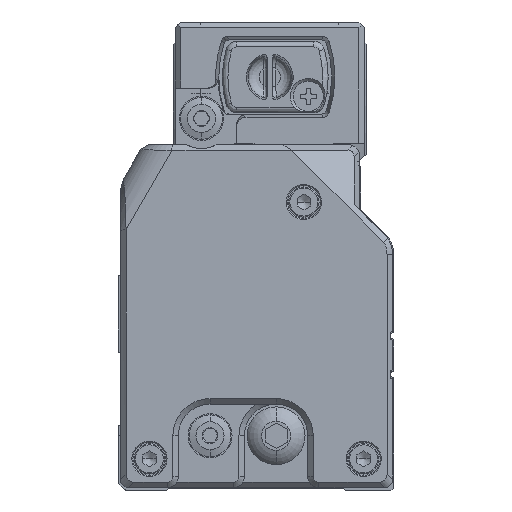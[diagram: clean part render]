
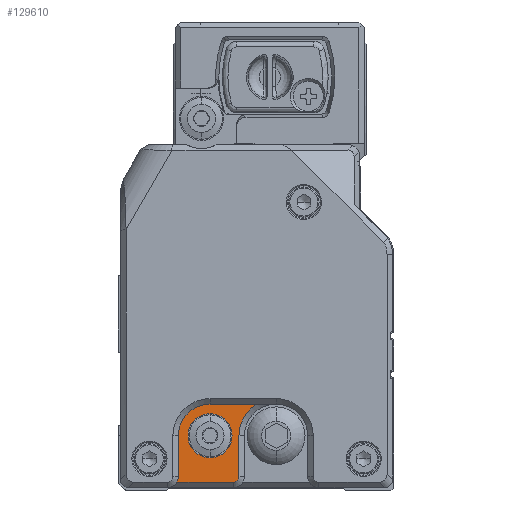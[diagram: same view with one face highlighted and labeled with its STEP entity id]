
A CAD part, left-side view. The second image highlights one B-rep face of the part: STEP entity #129610.
In plain terms, the highlighted planar face has unit normal (-1, 0, 0) as drawn and (1, 0, 0) by its records, which use the part's own axes.
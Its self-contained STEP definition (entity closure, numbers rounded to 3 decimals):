
#20410=CARTESIAN_POINT('',(664.177,4.212,
11.598));
#20420=DIRECTION('',(0.,-1.,0.));
#20430=VECTOR('',#20420,1.);
#20440=LINE('',#20410,#20430);
#20450=CARTESIAN_POINT('',(664.177,8.48,
11.598));
#20460=VERTEX_POINT('',#20450);
#20470=CARTESIAN_POINT('',(664.177,-1.788,
11.598));
#20480=VERTEX_POINT('',#20470);
#20490=EDGE_CURVE('',#20460,#20480,#20440,.T.);
#61180=CARTESIAN_POINT('',(664.177,2.462,
-0.852));
#61190=VERTEX_POINT('',#61180);
#61240=CARTESIAN_POINT('',(664.177,2.462,
3.148));
#61250=DIRECTION('',(-1.,0.,0.));
#61260=DIRECTION('',(0.,0.,-1.));
#61270=AXIS2_PLACEMENT_3D('',#61240,#61250,#61260);
#61280=CIRCLE('',#61270,4.);
#61290=CARTESIAN_POINT('',(664.177,2.462,
7.148));
#61300=VERTEX_POINT('',#61290);
#61310=EDGE_CURVE('',#61190,#61300,#61280,.T.);
#73520=CARTESIAN_POINT('',(664.177,8.212,
10.598));
#73530=VERTEX_POINT('',#73520);
#73560=CARTESIAN_POINT('',(664.177,10.212,
10.598));
#73570=DIRECTION('',(-1.,0.,0.));
#73580=DIRECTION('',(0.,1.,0.));
#73590=AXIS2_PLACEMENT_3D('',#73560,#73570,#73580);
#73600=CIRCLE('',#73590,2.);
#73610=EDGE_CURVE('',#73530,#20460,#73600,.T.);
#114690=CARTESIAN_POINT('',(664.177,-1.788,
10.598));
#114700=DIRECTION('',(-1.,0.,0.));
#114710=DIRECTION('',(0.,1.,0.));
#114720=AXIS2_PLACEMENT_3D('',#114690,#114700,#114710);
#114730=CIRCLE('',#114720,1.);
#114740=CARTESIAN_POINT('',(664.177,-2.788,
10.598));
#114750=VERTEX_POINT('',#114740);
#114760=EDGE_CURVE('',#114750,#20480,#114730,.T.);
#121680=CARTESIAN_POINT('',(664.177,-6.002,
-2.602));
#121690=VERTEX_POINT('',#121680);
#121720=CARTESIAN_POINT('',(664.177,-5.888,
-2.602));
#121730=DIRECTION('',(0.,1.,0.));
#121740=VECTOR('',#121730,1.);
#121750=LINE('',#121720,#121740);
#121760=CARTESIAN_POINT('',(664.177,2.462,
-2.602));
#121770=VERTEX_POINT('',#121760);
#121780=EDGE_CURVE('',#121690,#121770,#121750,.T.);
#129150=CARTESIAN_POINT('',(664.177,-5.938,
-12.8));
#129160=DIRECTION('',(-1.,0.,0.));
#129170=DIRECTION('',(0.,0.,-1.));
#129180=AXIS2_PLACEMENT_3D('',#129150,#129160,#129170);
#129190=PLANE('',#129180);
#129200=ORIENTED_EDGE('',*,*,#20490,.T.);
#129210=ORIENTED_EDGE('',*,*,#73610,.T.);
#129220=CARTESIAN_POINT('',(664.177,8.212,
3.148));
#129230=DIRECTION('',(0.,0.,1.));
#129240=VECTOR('',#129230,1.);
#129250=LINE('',#129220,#129240);
#129260=CARTESIAN_POINT('',(664.177,8.212,
3.148));
#129270=VERTEX_POINT('',#129260);
#129280=EDGE_CURVE('',#129270,#73530,#129250,.T.);
#129290=ORIENTED_EDGE('',*,*,#129280,.T.);
#129300=CARTESIAN_POINT('',(664.177,2.462,
3.148));
#129310=DIRECTION('',(-1.,0.,0.));
#129320=DIRECTION('',(0.,1.,0.));
#129330=AXIS2_PLACEMENT_3D('',#129300,#129310,#129320);
#129340=CIRCLE('',#129330,5.75);
#129350=EDGE_CURVE('',#129270,#121770,#129340,.T.);
#129360=ORIENTED_EDGE('',*,*,#129350,.F.);
#129370=ORIENTED_EDGE('',*,*,#121780,.T.);
#129380=CARTESIAN_POINT('',(664.177,-9.538,
3.148));
#129390=DIRECTION('',(-1.,0.,0.));
#129400=DIRECTION('',(0.,1.,0.));
#129410=AXIS2_PLACEMENT_3D('',#129380,#129390,#129400);
#129420=CIRCLE('',#129410,6.75);
#129430=CARTESIAN_POINT('',(664.177,-2.788,
3.148));
#129440=VERTEX_POINT('',#129430);
#129450=EDGE_CURVE('',#129440,#121690,#129420,.T.);
#129460=ORIENTED_EDGE('',*,*,#129450,.T.);
#129470=CARTESIAN_POINT('',(664.177,-2.788,
6.873));
#129480=DIRECTION('',(0.,0.,-1.));
#129490=VECTOR('',#129480,1.);
#129500=LINE('',#129470,#129490);
#129510=EDGE_CURVE('',#114750,#129440,#129500,.T.);
#129520=ORIENTED_EDGE('',*,*,#129510,.T.);
#129530=ORIENTED_EDGE('',*,*,#114760,.F.);
#129540=EDGE_LOOP('',(#129530,#129520,#129460,#129370,#129360,#129290,
#129210,#129200));
#129550=FACE_OUTER_BOUND('',#129540,.T.);
#129560=ORIENTED_EDGE('',*,*,#61310,.T.);
#129570=EDGE_CURVE('',#61300,#61190,#61280,.T.);
#129580=ORIENTED_EDGE('',*,*,#129570,.T.);
#129590=EDGE_LOOP('',(#129580,#129560));
#129600=FACE_BOUND('',#129590,.T.);
#129610=ADVANCED_FACE('',(#129550,#129600),#129190,.F.);
